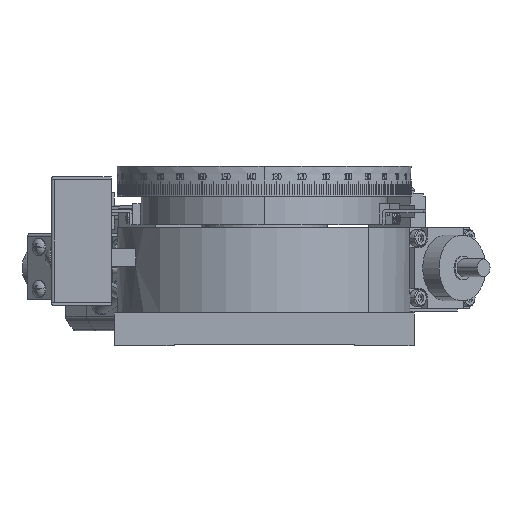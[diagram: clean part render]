
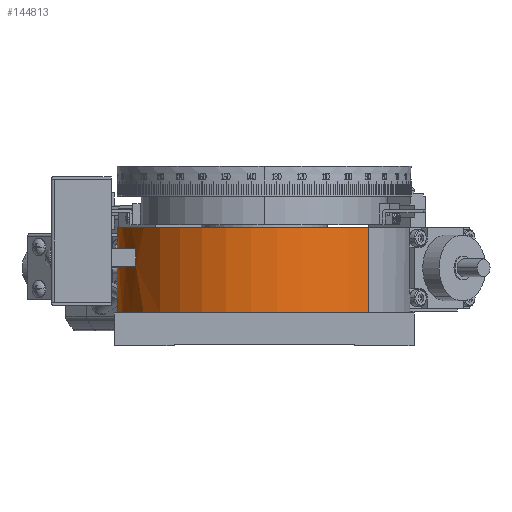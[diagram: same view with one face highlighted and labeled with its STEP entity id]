
A CAD part, left-side view. The second image highlights one B-rep face of the part: STEP entity #144813.
In plain terms, the highlighted cylindrical face has radius 49 mm (diameter 98 mm), a partial arc.
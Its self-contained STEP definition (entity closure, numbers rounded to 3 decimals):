
#3310 = CARTESIAN_POINT ( 'NONE',  ( 13.863, 357.223, 26.5 ) ) ;
#4383 = CARTESIAN_POINT ( 'NONE',  ( 37.863, 314.503, 39.5 ) ) ;
#7075 = ORIENTED_EDGE ( 'NONE', *, *, #67380, .F. ) ;
#8125 = LINE ( 'NONE', #129724, #22721 ) ;
#9666 = CARTESIAN_POINT ( 'NONE',  ( 3.215, 279.855, 39.5 ) ) ;
#10075 = DIRECTION ( 'NONE',  ( 0., 0., -1. ) ) ;
#12033 = ORIENTED_EDGE ( 'NONE', *, *, #55584, .F. ) ;
#12215 = ORIENTED_EDGE ( 'NONE', *, *, #81240, .T. ) ;
#13910 = DIRECTION ( 'NONE',  ( 0., 0., 1. ) ) ;
#14699 = DIRECTION ( 'NONE',  ( 1., 0., 0. ) ) ;
#14924 = EDGE_CURVE ( 'NONE', #45405, #139091, #94238, .T. ) ;
#15754 = CIRCLE ( 'NONE', #93333, 49. ) ;
#16238 = ORIENTED_EDGE ( 'NONE', *, *, #143560, .F. ) ;
#19349 = DIRECTION ( 'NONE',  ( 0., 0., 1. ) ) ;
#19594 = EDGE_CURVE ( 'NONE', #143329, #49684, #8125, .T. ) ;
#22259 = EDGE_LOOP ( 'NONE', ( #12033, #12215, #132082, #16238 ) ) ;
#22721 = VECTOR ( 'NONE', #104577, 1000. ) ;
#23847 = LINE ( 'NONE', #124407, #58769 ) ;
#29190 = CARTESIAN_POINT ( 'NONE',  ( 72.511, 349.151, 11. ) ) ;
#30846 = ORIENTED_EDGE ( 'NONE', *, *, #40566, .T. ) ;
#34196 = CARTESIAN_POINT ( 'NONE',  ( 37.863, 314.503, 32.5 ) ) ;
#40566 = EDGE_CURVE ( 'NONE', #124985, #139091, #23847, .T. ) ;
#43903 = EDGE_CURVE ( 'NONE', #63391, #124985, #15754, .T. ) ;
#44243 = CARTESIAN_POINT ( 'NONE',  ( 3.215, 279.855, 11. ) ) ;
#45405 = VERTEX_POINT ( 'NONE', #80478 ) ;
#48021 = CARTESIAN_POINT ( 'NONE',  ( 72.511, 349.151, 39.5 ) ) ;
#49684 = VERTEX_POINT ( 'NONE', #9666 ) ;
#52219 = VERTEX_POINT ( 'NONE', #29190 ) ;
#53248 = DIRECTION ( 'NONE',  ( -0.707, -0.707, 0. ) ) ;
#54222 = CARTESIAN_POINT ( 'NONE',  ( 37.863, 314.503, 11.5 ) ) ;
#55327 = CARTESIAN_POINT ( 'NONE',  ( 37.863, 314.503, 11. ) ) ;
#55584 = EDGE_CURVE ( 'NONE', #52219, #129723, #122790, .T. ) ;
#56065 = AXIS2_PLACEMENT_3D ( 'NONE', #34196, #10075, #85005 ) ;
#58769 = VECTOR ( 'NONE', #66403, 1000. ) ;
#62489 = DIRECTION ( 'NONE',  ( 0., 0., -1. ) ) ;
#63391 = VERTEX_POINT ( 'NONE', #3310 ) ;
#66403 = DIRECTION ( 'NONE',  ( 0., 0., 1. ) ) ;
#67253 = FACE_BOUND ( 'NONE', #81780, .T. ) ;
#67380 = EDGE_CURVE ( 'NONE', #63391, #45405, #125622, .T. ) ;
#68142 = DIRECTION ( 'NONE',  ( 1., 0., 0. ) ) ;
#74574 = CYLINDRICAL_SURFACE ( 'NONE', #80059, 49. ) ;
#80059 = AXIS2_PLACEMENT_3D ( 'NONE', #54222, #123514, #53248 ) ;
#80478 = CARTESIAN_POINT ( 'NONE',  ( 13.863, 357.223, 32.5 ) ) ;
#81240 = EDGE_CURVE ( 'NONE', #52219, #143329, #123859, .T. ) ;
#81780 = EDGE_LOOP ( 'NONE', ( #7075, #106287, #30846, #138950 ) ) ;
#83297 = VECTOR ( 'NONE', #139534, 1000. ) ;
#85005 = DIRECTION ( 'NONE',  ( 1., 0., 0. ) ) ;
#92662 = AXIS2_PLACEMENT_3D ( 'NONE', #4383, #132803, #98803 ) ;
#93333 = AXIS2_PLACEMENT_3D ( 'NONE', #109649, #62489, #14699 ) ;
#94238 = CIRCLE ( 'NONE', #56065, 49. ) ;
#98803 = DIRECTION ( 'NONE',  ( -0.707, -0.707, 0. ) ) ;
#102581 = VECTOR ( 'NONE', #13910, 1000. ) ;
#103846 = CARTESIAN_POINT ( 'NONE',  ( 61.863, 357.223, 26.5 ) ) ;
#104577 = DIRECTION ( 'NONE',  ( 0., 0., 1. ) ) ;
#106287 = ORIENTED_EDGE ( 'NONE', *, *, #43903, .T. ) ;
#109649 = CARTESIAN_POINT ( 'NONE',  ( 37.863, 314.503, 26.5 ) ) ;
#113130 = FACE_OUTER_BOUND ( 'NONE', #22259, .T. ) ;
#118708 = CARTESIAN_POINT ( 'NONE',  ( 72.511, 349.151, 11.5 ) ) ;
#122790 = LINE ( 'NONE', #118708, #102581 ) ;
#123514 = DIRECTION ( 'NONE',  ( 0., 0., 1. ) ) ;
#123859 = CIRCLE ( 'NONE', #148805, 49. ) ;
#124407 = CARTESIAN_POINT ( 'NONE',  ( 61.863, 357.223, 26.5 ) ) ;
#124985 = VERTEX_POINT ( 'NONE', #103846 ) ;
#125622 = LINE ( 'NONE', #140041, #83297 ) ;
#129723 = VERTEX_POINT ( 'NONE', #48021 ) ;
#129724 = CARTESIAN_POINT ( 'NONE',  ( 3.215, 279.855, 11.5 ) ) ;
#132082 = ORIENTED_EDGE ( 'NONE', *, *, #19594, .T. ) ;
#132803 = DIRECTION ( 'NONE',  ( 0., 0., 1. ) ) ;
#138950 = ORIENTED_EDGE ( 'NONE', *, *, #14924, .F. ) ;
#139091 = VERTEX_POINT ( 'NONE', #139161 ) ;
#139161 = CARTESIAN_POINT ( 'NONE',  ( 61.863, 357.223, 32.5 ) ) ;
#139295 = CIRCLE ( 'NONE', #92662, 49. ) ;
#139534 = DIRECTION ( 'NONE',  ( 0., 0., 1. ) ) ;
#140041 = CARTESIAN_POINT ( 'NONE',  ( 13.863, 357.223, 26.5 ) ) ;
#143329 = VERTEX_POINT ( 'NONE', #44243 ) ;
#143560 = EDGE_CURVE ( 'NONE', #129723, #49684, #139295, .T. ) ;
#144813 = ADVANCED_FACE ( 'NONE', ( #113130, #67253 ), #74574, .T. ) ;
#148805 = AXIS2_PLACEMENT_3D ( 'NONE', #55327, #19349, #68142 ) ;
